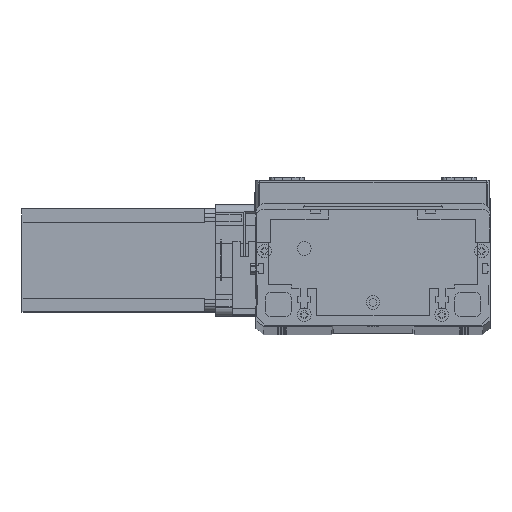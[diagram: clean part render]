
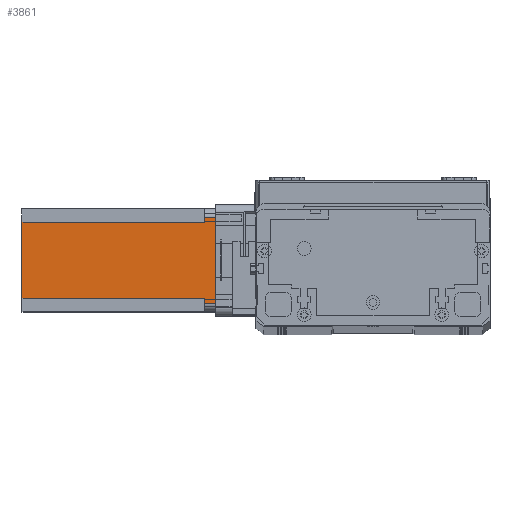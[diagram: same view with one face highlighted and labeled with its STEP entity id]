
A CAD part, top view. The second image highlights one B-rep face of the part: STEP entity #3861.
In plain terms, the highlighted planar face has unit normal (0, 0, 1) as drawn and (0, -1, 0) by its records, which use the part's own axes.
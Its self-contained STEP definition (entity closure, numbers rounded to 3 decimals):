
#1179 = LINE ( 'NONE', #20564, #17675 ) ;
#1477 = CARTESIAN_POINT ( 'NONE',  ( 5., 0., 0. ) ) ;
#1493 = ORIENTED_EDGE ( 'NONE', *, *, #13093, .F. ) ;
#1556 = VERTEX_POINT ( 'NONE', #23578 ) ;
#1792 = VERTEX_POINT ( 'NONE', #12487 ) ;
#1976 = ORIENTED_EDGE ( 'NONE', *, *, #12882, .T. ) ;
#2155 = VECTOR ( 'NONE', #14929, 1000. ) ;
#3861 = ADVANCED_FACE ( 'NONE', ( #18471 ), #15255, .T. ) ;
#4240 = LINE ( 'NONE', #24798, #20639 ) ;
#4772 = CARTESIAN_POINT ( 'NONE',  ( 0., 0., -112.5 ) ) ;
#5945 = LINE ( 'NONE', #17022, #16736 ) ;
#6209 = CARTESIAN_POINT ( 'NONE',  ( 52., 0., -112.5 ) ) ;
#6249 = DIRECTION ( 'NONE',  ( 1., 0., 0. ) ) ;
#6512 = ORIENTED_EDGE ( 'NONE', *, *, #12218, .T. ) ;
#9067 = VECTOR ( 'NONE', #6249, 1000. ) ;
#9684 = CARTESIAN_POINT ( 'NONE',  ( 52., 0., -6.5 ) ) ;
#10164 = VERTEX_POINT ( 'NONE', #12170 ) ;
#10279 = ORIENTED_EDGE ( 'NONE', *, *, #12061, .T. ) ;
#10360 = VERTEX_POINT ( 'NONE', #27079 ) ;
#11583 = ORIENTED_EDGE ( 'NONE', *, *, #14851, .F. ) ;
#12061 = EDGE_CURVE ( 'NONE', #26327, #13720, #4240, .T. ) ;
#12170 = CARTESIAN_POINT ( 'NONE',  ( 8., 0., -6.5 ) ) ;
#12218 = EDGE_CURVE ( 'NONE', #13720, #1556, #5945, .T. ) ;
#12487 = CARTESIAN_POINT ( 'NONE',  ( 5., 0., -6.5 ) ) ;
#12531 = VECTOR ( 'NONE', #15568, 1000. ) ;
#12674 = CARTESIAN_POINT ( 'NONE',  ( 52., 0., -112.5 ) ) ;
#12769 = VECTOR ( 'NONE', #22486, 1000. ) ;
#12882 = EDGE_CURVE ( 'NONE', #18355, #1792, #1179, .T. ) ;
#12910 = DIRECTION ( 'NONE',  ( 0., 0., 1. ) ) ;
#13093 = EDGE_CURVE ( 'NONE', #10164, #1792, #13749, .T. ) ;
#13720 = VERTEX_POINT ( 'NONE', #27164 ) ;
#13749 = LINE ( 'NONE', #27290, #2155 ) ;
#14151 = EDGE_CURVE ( 'NONE', #10360, #10164, #19569, .T. ) ;
#14246 = CARTESIAN_POINT ( 'NONE',  ( 8., 0., -112.5 ) ) ;
#14500 = EDGE_CURVE ( 'NONE', #10360, #22807, #23556, .T. ) ;
#14851 = EDGE_CURVE ( 'NONE', #26327, #22807, #26105, .T. ) ;
#14929 = DIRECTION ( 'NONE',  ( -1., 0., 0. ) ) ;
#14963 = DIRECTION ( 'NONE',  ( 0., 0., -1. ) ) ;
#15043 = ORIENTED_EDGE ( 'NONE', *, *, #14500, .T. ) ;
#15129 = DIRECTION ( 'NONE',  ( 0., -1., 0. ) ) ;
#15218 = CARTESIAN_POINT ( 'NONE',  ( 0., 0., -112.5 ) ) ;
#15255 = PLANE ( 'NONE',  #20624 ) ;
#15401 = LINE ( 'NONE', #27237, #9067 ) ;
#15568 = DIRECTION ( 'NONE',  ( 1., 0., 0. ) ) ;
#15752 = VECTOR ( 'NONE', #19002, 1000. ) ;
#16093 = ORIENTED_EDGE ( 'NONE', *, *, #26537, .F. ) ;
#16736 = VECTOR ( 'NONE', #12910, 1000. ) ;
#17022 = CARTESIAN_POINT ( 'NONE',  ( 55., 0., -112.5 ) ) ;
#17675 = VECTOR ( 'NONE', #18486, 1000. ) ;
#18355 = VERTEX_POINT ( 'NONE', #1477 ) ;
#18440 = ORIENTED_EDGE ( 'NONE', *, *, #14151, .F. ) ;
#18471 = FACE_OUTER_BOUND ( 'NONE', #21468, .T. ) ;
#18486 = DIRECTION ( 'NONE',  ( 0., 0., -1. ) ) ;
#19002 = DIRECTION ( 'NONE',  ( 0., 0., -1. ) ) ;
#19569 = LINE ( 'NONE', #14246, #12769 ) ;
#20564 = CARTESIAN_POINT ( 'NONE',  ( 5., 0., -112.5 ) ) ;
#20624 = AXIS2_PLACEMENT_3D ( 'NONE', #15218, #15129, #14963 ) ;
#20639 = VECTOR ( 'NONE', #22631, 1000. ) ;
#21468 = EDGE_LOOP ( 'NONE', ( #10279, #6512, #16093, #1976, #1493, #18440, #15043, #11583 ) ) ;
#22486 = DIRECTION ( 'NONE',  ( 0., 0., 1. ) ) ;
#22631 = DIRECTION ( 'NONE',  ( 1., 0., 0. ) ) ;
#22807 = VERTEX_POINT ( 'NONE', #12674 ) ;
#23556 = LINE ( 'NONE', #4772, #12531 ) ;
#23578 = CARTESIAN_POINT ( 'NONE',  ( 55., 0., 0. ) ) ;
#24798 = CARTESIAN_POINT ( 'NONE',  ( 52., 0., -6.5 ) ) ;
#26105 = LINE ( 'NONE', #6209, #15752 ) ;
#26327 = VERTEX_POINT ( 'NONE', #9684 ) ;
#26537 = EDGE_CURVE ( 'NONE', #18355, #1556, #15401, .T. ) ;
#27079 = CARTESIAN_POINT ( 'NONE',  ( 8., 0., -112.5 ) ) ;
#27164 = CARTESIAN_POINT ( 'NONE',  ( 55., 0., -6.5 ) ) ;
#27237 = CARTESIAN_POINT ( 'NONE',  ( 0., 0., 0. ) ) ;
#27290 = CARTESIAN_POINT ( 'NONE',  ( 8., 0., -6.5 ) ) ;
